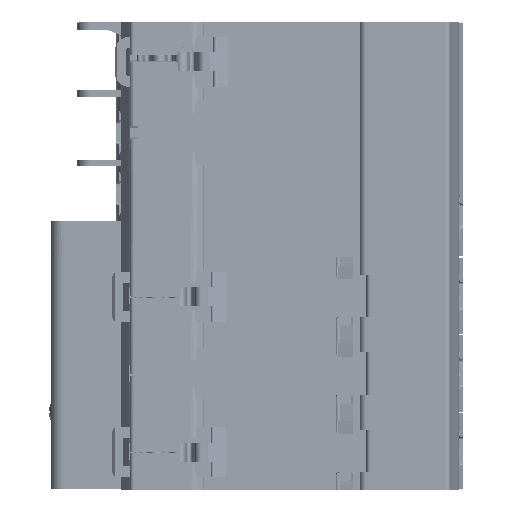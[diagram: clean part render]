
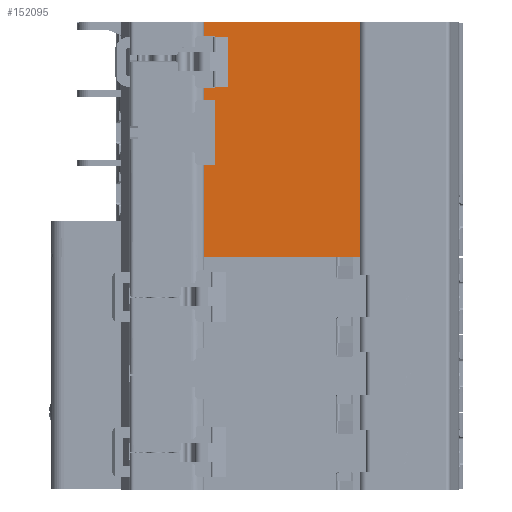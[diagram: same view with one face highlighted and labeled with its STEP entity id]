
A CAD part, front view. The second image highlights one B-rep face of the part: STEP entity #152095.
In plain terms, the highlighted planar face has unit normal (0, -1, 0).
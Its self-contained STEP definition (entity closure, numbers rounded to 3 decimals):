
#7361=DIRECTION('',(0.,0.,1.));
#7362=VECTOR('',#7361,53.5);
#7363=CARTESIAN_POINT('',(39.8,-37.,-14.4));
#7364=LINE('',#7363,#7362);
#7373=DIRECTION('',(1.,0.,0.));
#7374=VECTOR('',#7373,0.158);
#7375=CARTESIAN_POINT('',(5.4,-37.,35.65));
#7376=LINE('',#7375,#7374);
#7377=DIRECTION('',(-1.,0.,0.));
#7378=VECTOR('',#7377,2.6);
#7379=CARTESIAN_POINT('',(5.4,-37.,36.));
#7380=LINE('',#7379,#7378);
#7381=DIRECTION('',(0.,0.,1.));
#7382=VECTOR('',#7381,3.1);
#7383=CARTESIAN_POINT('',(2.8,-37.,36.));
#7384=LINE('',#7383,#7382);
#7385=DIRECTION('',(1.,0.,0.));
#7386=VECTOR('',#7385,37.);
#7387=CARTESIAN_POINT('',(2.8,-37.,39.1));
#7388=LINE('',#7387,#7386);
#7389=DIRECTION('',(-1.,0.,0.));
#7390=VECTOR('',#7389,37.);
#7391=CARTESIAN_POINT('',(39.8,-37.,-14.4));
#7392=LINE('',#7391,#7390);
#7393=DIRECTION('',(-1.,0.,0.));
#7394=VECTOR('',#7393,2.6);
#7395=CARTESIAN_POINT('',(5.4,-37.,21.4));
#7396=LINE('',#7395,#7394);
#7397=DIRECTION('',(0.,0.,1.));
#7398=VECTOR('',#7397,2.6);
#7399=CARTESIAN_POINT('',(2.8,-37.,21.4));
#7400=LINE('',#7399,#7398);
#7401=DIRECTION('',(1.,0.,0.));
#7402=VECTOR('',#7401,0.158);
#7403=CARTESIAN_POINT('',(5.4,-37.,24.35));
#7404=LINE('',#7403,#7402);
#7405=DIRECTION('',(0.,0.,-1.));
#7406=VECTOR('',#7405,11.3);
#7407=CARTESIAN_POINT('',(5.558,-37.,35.65));
#7408=LINE('',#7407,#7406);
#7515=DIRECTION('',(0.,0.,-1.));
#7516=VECTOR('',#7515,0.35);
#7517=CARTESIAN_POINT('',(5.4,-37.,24.35));
#7518=LINE('',#7517,#7516);
#7519=DIRECTION('',(0.,0.,-1.));
#7520=VECTOR('',#7519,0.35);
#7521=CARTESIAN_POINT('',(5.4,-37.,36.));
#7522=LINE('',#7521,#7520);
#8122=DIRECTION('',(-1.,0.,0.));
#8123=VECTOR('',#8122,2.6);
#8124=CARTESIAN_POINT('',(5.4,-37.,24.));
#8125=LINE('',#8124,#8123);
#8264=DIRECTION('',(0.,0.,-1.));
#8265=VECTOR('',#8264,15.);
#8266=CARTESIAN_POINT('',(5.4,-37.,21.4));
#8267=LINE('',#8266,#8265);
#8280=DIRECTION('',(-1.,0.,0.));
#8281=VECTOR('',#8280,2.6);
#8282=CARTESIAN_POINT('',(5.4,-37.,6.4));
#8283=LINE('',#8282,#8281);
#8313=DIRECTION('',(0.,0.,-1.));
#8314=VECTOR('',#8313,20.8);
#8315=CARTESIAN_POINT('',(2.8,-37.,6.4));
#8316=LINE('',#8315,#8314);
#112909=CARTESIAN_POINT('',(2.8,-37.,-14.4));
#112910=VERTEX_POINT('',#112909);
#112911=CARTESIAN_POINT('',(39.8,-37.,-14.4));
#112912=VERTEX_POINT('',#112911);
#114589=CARTESIAN_POINT('',(5.4,-37.,6.4));
#114590=CARTESIAN_POINT('',(2.8,-37.,6.4));
#114591=VERTEX_POINT('',#114589);
#114592=VERTEX_POINT('',#114590);
#115352=CARTESIAN_POINT('',(5.4,-37.,24.));
#115353=VERTEX_POINT('',#115352);
#115354=CARTESIAN_POINT('',(2.8,-37.,24.));
#115355=VERTEX_POINT('',#115354);
#115388=CARTESIAN_POINT('',(2.8,-37.,21.4));
#115389=VERTEX_POINT('',#115388);
#115390=CARTESIAN_POINT('',(5.4,-37.,21.4));
#115391=VERTEX_POINT('',#115390);
#116681=CARTESIAN_POINT('',(39.8,-37.,39.1));
#116682=VERTEX_POINT('',#116681);
#116683=CARTESIAN_POINT('',(2.8,-37.,39.1));
#116684=VERTEX_POINT('',#116683);
#116799=CARTESIAN_POINT('',(2.8,-37.,36.));
#116800=VERTEX_POINT('',#116799);
#116801=CARTESIAN_POINT('',(5.4,-37.,36.));
#116802=VERTEX_POINT('',#116801);
#120288=CARTESIAN_POINT('',(5.4,-37.,35.65));
#120289=CARTESIAN_POINT('',(5.558,-37.,35.65));
#120290=VERTEX_POINT('',#120288);
#120291=VERTEX_POINT('',#120289);
#120292=CARTESIAN_POINT('',(5.4,-37.,24.35));
#120293=CARTESIAN_POINT('',(5.558,-37.,24.35));
#120294=VERTEX_POINT('',#120292);
#120295=VERTEX_POINT('',#120293);
#152058=CARTESIAN_POINT('',(2.8,-37.,0.));
#152059=DIRECTION('',(0.,-1.,0.));
#152060=DIRECTION('',(1.,0.,0.));
#152061=AXIS2_PLACEMENT_3D('',#152058,#152059,#152060);
#152062=PLANE('',#152061);
#152064=ORIENTED_EDGE('',*,*,#152063,.F.);
#152066=ORIENTED_EDGE('',*,*,#152065,.F.);
#152068=ORIENTED_EDGE('',*,*,#152067,.T.);
#152070=ORIENTED_EDGE('',*,*,#152069,.T.);
#152072=ORIENTED_EDGE('',*,*,#152071,.T.);
#152073=ORIENTED_EDGE('',*,*,#152049,.F.);
#152074=ORIENTED_EDGE('',*,*,#145060,.T.);
#152076=ORIENTED_EDGE('',*,*,#152075,.F.);
#152078=ORIENTED_EDGE('',*,*,#152077,.F.);
#152080=ORIENTED_EDGE('',*,*,#152079,.F.);
#152082=ORIENTED_EDGE('',*,*,#152081,.T.);
#152084=ORIENTED_EDGE('',*,*,#152083,.T.);
#152086=ORIENTED_EDGE('',*,*,#152085,.F.);
#152088=ORIENTED_EDGE('',*,*,#152087,.F.);
#152090=ORIENTED_EDGE('',*,*,#152089,.T.);
#152092=ORIENTED_EDGE('',*,*,#152091,.F.);
#152093=EDGE_LOOP('',(#152064,#152066,#152068,#152070,#152072,#152073,#152074,
#152076,#152078,#152080,#152082,#152084,#152086,#152088,#152090,#152092));
#152094=FACE_OUTER_BOUND('',#152093,.F.);
#152095=ADVANCED_FACE('',(#152094),#152062,.T.);
#145060=EDGE_CURVE('',#112912,#112910,#7392,.T.);
#152049=EDGE_CURVE('',#112912,#116682,#7364,.T.);
#152063=EDGE_CURVE('',#120290,#120291,#7376,.T.);
#152065=EDGE_CURVE('',#116802,#120290,#7522,.T.);
#152067=EDGE_CURVE('',#116802,#116800,#7380,.T.);
#152069=EDGE_CURVE('',#116800,#116684,#7384,.T.);
#152071=EDGE_CURVE('',#116684,#116682,#7388,.T.);
#152075=EDGE_CURVE('',#114592,#112910,#8316,.T.);
#152077=EDGE_CURVE('',#114591,#114592,#8283,.T.);
#152079=EDGE_CURVE('',#115391,#114591,#8267,.T.);
#152081=EDGE_CURVE('',#115391,#115389,#7396,.T.);
#152083=EDGE_CURVE('',#115389,#115355,#7400,.T.);
#152085=EDGE_CURVE('',#115353,#115355,#8125,.T.);
#152087=EDGE_CURVE('',#120294,#115353,#7518,.T.);
#152089=EDGE_CURVE('',#120294,#120295,#7404,.T.);
#152091=EDGE_CURVE('',#120291,#120295,#7408,.T.);
